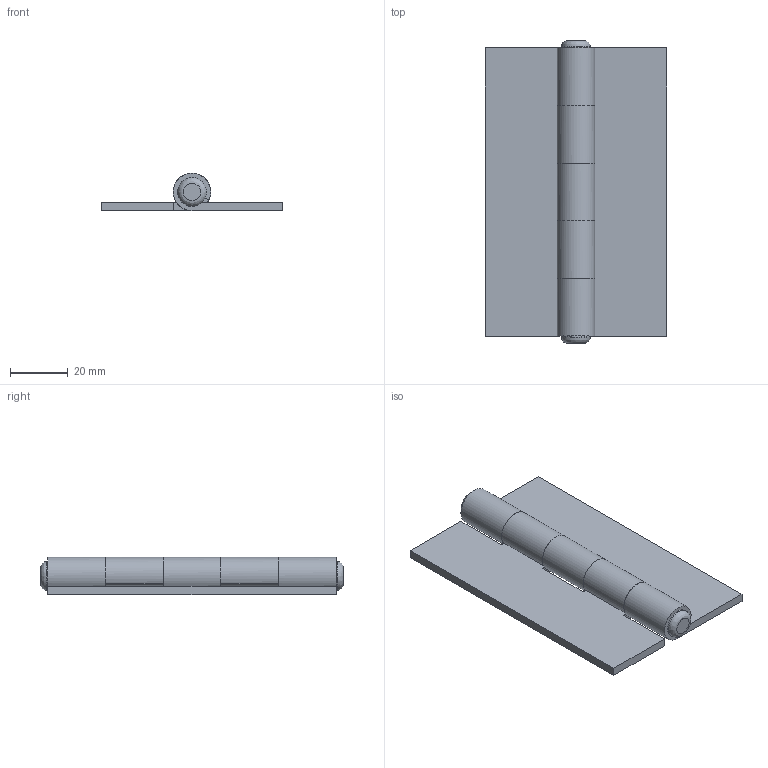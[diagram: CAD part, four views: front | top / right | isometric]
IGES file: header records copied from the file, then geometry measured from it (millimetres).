
Global section: file name: DR_HTN10063-30; native system: Autodesk Inventor 2015; preprocessor: unknown; author: Administrator; date: 20170823.082109; units: millimetre
Bounding box: 63 x 105 x 12.99 mm (x, y, z)
Volume: 28875.2 mm3; surface area: 21459.1 mm2
Topology: 3 solids, 3 shells, 47 faces, 125 edges, 86 vertices
Faces by surface type: bspline 47
